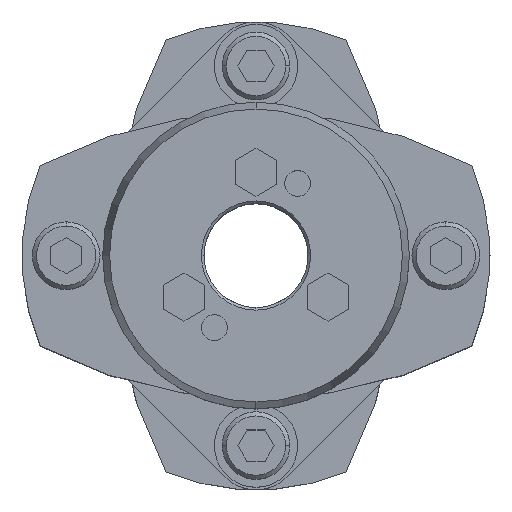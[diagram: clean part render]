
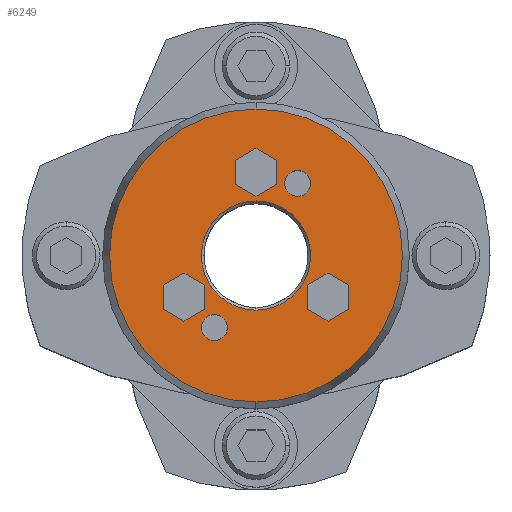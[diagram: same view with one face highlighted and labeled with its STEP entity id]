
A CAD part, top view. The second image highlights one B-rep face of the part: STEP entity #6249.
In plain terms, the highlighted planar face has unit normal (0, 0, 1).
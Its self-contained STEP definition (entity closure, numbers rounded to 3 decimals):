
#1677=CARTESIAN_POINT('',(0.,10.5,52.0));
#1678=VERTEX_POINT('',#1677);
#1694=CARTESIAN_POINT('',(0.,-10.5,52.0));
#1695=VERTEX_POINT('',#1694);
#1702=CARTESIAN_POINT('',(0.,0.,52.0));
#1703=DIRECTION('',(0.0,0.0,1.0));
#1704=DIRECTION('',(0.0,1.0,0.0));
#1705=AXIS2_PLACEMENT_3D('',#1702,#1703,#1704);
#1706=CIRCLE('',#1705,10.5);
#1707=EDGE_CURVE('',#1695,#1678,#1706,.T.);
#1865=CARTESIAN_POINT('',(0.,-28.16,52.0));
#1866=VERTEX_POINT('',#1865);
#1873=CARTESIAN_POINT('',(0.,28.16,52.0));
#1874=VERTEX_POINT('',#1873);
#1875=CARTESIAN_POINT('',(0.,0.,52.0));
#1876=DIRECTION('',(0.0,0.0,-1.0));
#1877=DIRECTION('',(0.0,-1.0,0.0));
#1878=AXIS2_PLACEMENT_3D('',#1875,#1876,#1877);
#1879=CIRCLE('',#1878,28.16);
#1880=EDGE_CURVE('',#1866,#1874,#1879,.T.);
#2123=CARTESIAN_POINT('',(8.,16.356,52.0));
#2124=VERTEX_POINT('',#2123);
#2140=CARTESIAN_POINT('',(8.,11.356,52.0));
#2141=VERTEX_POINT('',#2140);
#2148=CARTESIAN_POINT('',(8.,13.856,52.0));
#2149=DIRECTION('',(0.0,0.0,-1.0));
#2150=DIRECTION('',(0.0,1.0,0.0));
#2151=AXIS2_PLACEMENT_3D('',#2148,#2149,#2150);
#2152=CIRCLE('',#2151,2.5);
#2153=EDGE_CURVE('',#2124,#2141,#2152,.T.);
#2165=CARTESIAN_POINT('',(-8.,-11.356,52.0));
#2166=VERTEX_POINT('',#2165);
#2182=CARTESIAN_POINT('',(-8.,-16.356,52.0));
#2183=VERTEX_POINT('',#2182);
#2190=CARTESIAN_POINT('',(-8.,-13.856,52.0));
#2191=DIRECTION('',(0.0,0.0,-1.0));
#2192=DIRECTION('',(0.0,1.0,0.0));
#2193=AXIS2_PLACEMENT_3D('',#2190,#2191,#2192);
#2194=CIRCLE('',#2193,2.5);
#2195=EDGE_CURVE('',#2166,#2183,#2194,.T.);
#4765=CARTESIAN_POINT('',(13.856,-3.381,52.0));
#4766=VERTEX_POINT('',#4765);
#4773=CARTESIAN_POINT('',(9.856,-5.691,52.0));
#4774=VERTEX_POINT('',#4773);
#4775=CARTESIAN_POINT('',(9.856,-5.691,52.0));
#4776=DIRECTION('',(0.866,0.5,0.0));
#4777=VECTOR('',#4776,4.619);
#4778=LINE('',#4775,#4777);
#4779=EDGE_CURVE('',#4774,#4766,#4778,.T.);
#4803=CARTESIAN_POINT('',(17.856,-5.691,52.0));
#4804=VERTEX_POINT('',#4803);
#4811=CARTESIAN_POINT('',(13.856,-3.381,52.0));
#4812=DIRECTION('',(0.866,-0.5,0.0));
#4813=VECTOR('',#4812,4.619);
#4814=LINE('',#4811,#4813);
#4815=EDGE_CURVE('',#4766,#4804,#4814,.T.);
#4834=CARTESIAN_POINT('',(17.856,-10.309,52.0));
#4835=VERTEX_POINT('',#4834);
#4842=CARTESIAN_POINT('',(17.856,-5.691,52.0));
#4843=DIRECTION('',(0.0,-1.0,0.0));
#4844=VECTOR('',#4843,4.619);
#4845=LINE('',#4842,#4844);
#4846=EDGE_CURVE('',#4804,#4835,#4845,.T.);
#4865=CARTESIAN_POINT('',(13.856,-12.619,52.0));
#4866=VERTEX_POINT('',#4865);
#4873=CARTESIAN_POINT('',(17.856,-10.309,52.0));
#4874=DIRECTION('',(-0.866,-0.5,0.0));
#4875=VECTOR('',#4874,4.619);
#4876=LINE('',#4873,#4875);
#4877=EDGE_CURVE('',#4835,#4866,#4876,.T.);
#4896=CARTESIAN_POINT('',(9.856,-10.309,52.0));
#4897=VERTEX_POINT('',#4896);
#4904=CARTESIAN_POINT('',(13.856,-12.619,52.0));
#4905=DIRECTION('',(-0.866,0.5,0.0));
#4906=VECTOR('',#4905,4.619);
#4907=LINE('',#4904,#4906);
#4908=EDGE_CURVE('',#4866,#4897,#4907,.T.);
#4926=CARTESIAN_POINT('',(9.856,-10.309,52.0));
#4927=DIRECTION('',(0.0,1.0,0.0));
#4928=VECTOR('',#4927,4.619);
#4929=LINE('',#4926,#4928);
#4930=EDGE_CURVE('',#4897,#4774,#4929,.T.);
#4965=CARTESIAN_POINT('',(0.,20.619,52.0));
#4966=VERTEX_POINT('',#4965);
#4973=CARTESIAN_POINT('',(-4.,18.309,52.0));
#4974=VERTEX_POINT('',#4973);
#4975=CARTESIAN_POINT('',(-4.,18.309,52.0));
#4976=DIRECTION('',(0.866,0.5,0.0));
#4977=VECTOR('',#4976,4.619);
#4978=LINE('',#4975,#4977);
#4979=EDGE_CURVE('',#4974,#4966,#4978,.T.);
#5003=CARTESIAN_POINT('',(4.,18.309,52.0));
#5004=VERTEX_POINT('',#5003);
#5011=CARTESIAN_POINT('',(0.,20.619,52.0));
#5012=DIRECTION('',(0.866,-0.5,0.0));
#5013=VECTOR('',#5012,4.619);
#5014=LINE('',#5011,#5013);
#5015=EDGE_CURVE('',#4966,#5004,#5014,.T.);
#5034=CARTESIAN_POINT('',(4.,13.691,52.0));
#5035=VERTEX_POINT('',#5034);
#5042=CARTESIAN_POINT('',(4.,18.309,52.0));
#5043=DIRECTION('',(0.0,-1.0,0.0));
#5044=VECTOR('',#5043,4.619);
#5045=LINE('',#5042,#5044);
#5046=EDGE_CURVE('',#5004,#5035,#5045,.T.);
#5065=CARTESIAN_POINT('',(0.,11.381,52.0));
#5066=VERTEX_POINT('',#5065);
#5073=CARTESIAN_POINT('',(4.,13.691,52.0));
#5074=DIRECTION('',(-0.866,-0.5,0.0));
#5075=VECTOR('',#5074,4.619);
#5076=LINE('',#5073,#5075);
#5077=EDGE_CURVE('',#5035,#5066,#5076,.T.);
#5096=CARTESIAN_POINT('',(-4.,13.691,52.0));
#5097=VERTEX_POINT('',#5096);
#5104=CARTESIAN_POINT('',(0.,11.381,52.0));
#5105=DIRECTION('',(-0.866,0.5,0.0));
#5106=VECTOR('',#5105,4.619);
#5107=LINE('',#5104,#5106);
#5108=EDGE_CURVE('',#5066,#5097,#5107,.T.);
#5126=CARTESIAN_POINT('',(-4.,13.691,52.0));
#5127=DIRECTION('',(0.0,1.0,0.0));
#5128=VECTOR('',#5127,4.619);
#5129=LINE('',#5126,#5128);
#5130=EDGE_CURVE('',#5097,#4974,#5129,.T.);
#5165=CARTESIAN_POINT('',(-13.856,-3.381,52.0));
#5166=VERTEX_POINT('',#5165);
#5173=CARTESIAN_POINT('',(-17.856,-5.691,52.0));
#5174=VERTEX_POINT('',#5173);
#5175=CARTESIAN_POINT('',(-17.856,-5.691,52.0));
#5176=DIRECTION('',(0.866,0.5,0.0));
#5177=VECTOR('',#5176,4.619);
#5178=LINE('',#5175,#5177);
#5179=EDGE_CURVE('',#5174,#5166,#5178,.T.);
#5203=CARTESIAN_POINT('',(-9.856,-5.691,52.0));
#5204=VERTEX_POINT('',#5203);
#5211=CARTESIAN_POINT('',(-13.856,-3.381,52.0));
#5212=DIRECTION('',(0.866,-0.5,0.0));
#5213=VECTOR('',#5212,4.619);
#5214=LINE('',#5211,#5213);
#5215=EDGE_CURVE('',#5166,#5204,#5214,.T.);
#5234=CARTESIAN_POINT('',(-9.856,-10.309,52.0));
#5235=VERTEX_POINT('',#5234);
#5242=CARTESIAN_POINT('',(-9.856,-5.691,52.0));
#5243=DIRECTION('',(0.0,-1.0,0.0));
#5244=VECTOR('',#5243,4.619);
#5245=LINE('',#5242,#5244);
#5246=EDGE_CURVE('',#5204,#5235,#5245,.T.);
#5265=CARTESIAN_POINT('',(-13.856,-12.619,52.0));
#5266=VERTEX_POINT('',#5265);
#5273=CARTESIAN_POINT('',(-9.856,-10.309,52.0));
#5274=DIRECTION('',(-0.866,-0.5,0.0));
#5275=VECTOR('',#5274,4.619);
#5276=LINE('',#5273,#5275);
#5277=EDGE_CURVE('',#5235,#5266,#5276,.T.);
#5296=CARTESIAN_POINT('',(-17.856,-10.309,52.0));
#5297=VERTEX_POINT('',#5296);
#5304=CARTESIAN_POINT('',(-13.856,-12.619,52.0));
#5305=DIRECTION('',(-0.866,0.5,0.0));
#5306=VECTOR('',#5305,4.619);
#5307=LINE('',#5304,#5306);
#5308=EDGE_CURVE('',#5266,#5297,#5307,.T.);
#5326=CARTESIAN_POINT('',(-17.856,-10.309,52.0));
#5327=DIRECTION('',(0.0,1.0,0.0));
#5328=VECTOR('',#5327,4.619);
#5329=LINE('',#5326,#5328);
#5330=EDGE_CURVE('',#5297,#5174,#5329,.T.);
#5356=CARTESIAN_POINT('',(-8.,-13.856,52.0));
#5357=DIRECTION('',(0.0,0.0,-1.0));
#5358=DIRECTION('',(0.0,1.0,0.0));
#5359=AXIS2_PLACEMENT_3D('',#5356,#5357,#5358);
#5360=CIRCLE('',#5359,2.5);
#5361=EDGE_CURVE('',#2183,#2166,#5360,.T.);
#5390=CARTESIAN_POINT('',(8.,13.856,52.0));
#5391=DIRECTION('',(0.0,0.0,-1.0));
#5392=DIRECTION('',(0.0,1.0,0.0));
#5393=AXIS2_PLACEMENT_3D('',#5390,#5391,#5392);
#5394=CIRCLE('',#5393,2.5);
#5395=EDGE_CURVE('',#2141,#2124,#5394,.T.);
#6188=CARTESIAN_POINT('',(0.,0.,52.0));
#6189=DIRECTION('',(0.0,0.0,-1.0));
#6190=DIRECTION('',(0.0,-1.0,0.0));
#6191=AXIS2_PLACEMENT_3D('',#6188,#6189,#6190);
#6192=CIRCLE('',#6191,28.16);
#6193=EDGE_CURVE('',#1874,#1866,#6192,.T.);
#6198=CARTESIAN_POINT('',(0.,2.682,52.0));
#6199=DIRECTION('',(0.0,0.0,1.0));
#6200=DIRECTION('',(0.0,1.0,0.0));
#6201=AXIS2_PLACEMENT_3D('',#6198,#6199,#6200);
#6202=PLANE('',#6201);
#6203=ORIENTED_EDGE('',*,*,#6193,.F.);
#6204=ORIENTED_EDGE('',*,*,#1880,.F.);
#6205=EDGE_LOOP('',(#6203,#6204));
#6206=FACE_OUTER_BOUND('',#6205,.T.);
#6207=ORIENTED_EDGE('',*,*,#4779,.T.);
#6208=ORIENTED_EDGE('',*,*,#4815,.T.);
#6209=ORIENTED_EDGE('',*,*,#4846,.T.);
#6210=ORIENTED_EDGE('',*,*,#4877,.T.);
#6211=ORIENTED_EDGE('',*,*,#4908,.T.);
#6212=ORIENTED_EDGE('',*,*,#4930,.T.);
#6213=EDGE_LOOP('',(#6207,#6208,#6209,#6210,#6211,#6212));
#6214=FACE_BOUND('',#6213,.T.);
#6215=ORIENTED_EDGE('',*,*,#4979,.T.);
#6216=ORIENTED_EDGE('',*,*,#5015,.T.);
#6217=ORIENTED_EDGE('',*,*,#5046,.T.);
#6218=ORIENTED_EDGE('',*,*,#5077,.T.);
#6219=ORIENTED_EDGE('',*,*,#5108,.T.);
#6220=ORIENTED_EDGE('',*,*,#5130,.T.);
#6221=EDGE_LOOP('',(#6215,#6216,#6217,#6218,#6219,#6220));
#6222=FACE_BOUND('',#6221,.T.);
#6223=ORIENTED_EDGE('',*,*,#5179,.T.);
#6224=ORIENTED_EDGE('',*,*,#5215,.T.);
#6225=ORIENTED_EDGE('',*,*,#5246,.T.);
#6226=ORIENTED_EDGE('',*,*,#5277,.T.);
#6227=ORIENTED_EDGE('',*,*,#5308,.T.);
#6228=ORIENTED_EDGE('',*,*,#5330,.T.);
#6229=EDGE_LOOP('',(#6223,#6224,#6225,#6226,#6227,#6228));
#6230=FACE_BOUND('',#6229,.T.);
#6231=ORIENTED_EDGE('',*,*,#2195,.T.);
#6232=ORIENTED_EDGE('',*,*,#5361,.T.);
#6233=EDGE_LOOP('',(#6231,#6232));
#6234=FACE_BOUND('',#6233,.T.);
#6235=ORIENTED_EDGE('',*,*,#2153,.T.);
#6236=ORIENTED_EDGE('',*,*,#5395,.T.);
#6237=EDGE_LOOP('',(#6235,#6236));
#6238=FACE_BOUND('',#6237,.T.);
#6239=ORIENTED_EDGE('',*,*,#1707,.F.);
#6240=CARTESIAN_POINT('',(0.,0.,52.0));
#6241=DIRECTION('',(0.0,0.0,1.0));
#6242=DIRECTION('',(0.0,1.0,0.0));
#6243=AXIS2_PLACEMENT_3D('',#6240,#6241,#6242);
#6244=CIRCLE('',#6243,10.5);
#6245=EDGE_CURVE('',#1678,#1695,#6244,.T.);
#6246=ORIENTED_EDGE('',*,*,#6245,.F.);
#6247=EDGE_LOOP('',(#6239,#6246));
#6248=FACE_BOUND('',#6247,.T.);
#6249=ADVANCED_FACE('',(#6206,#6214,#6222,#6230,#6234,#6238,#6248),#6202,.T.);
